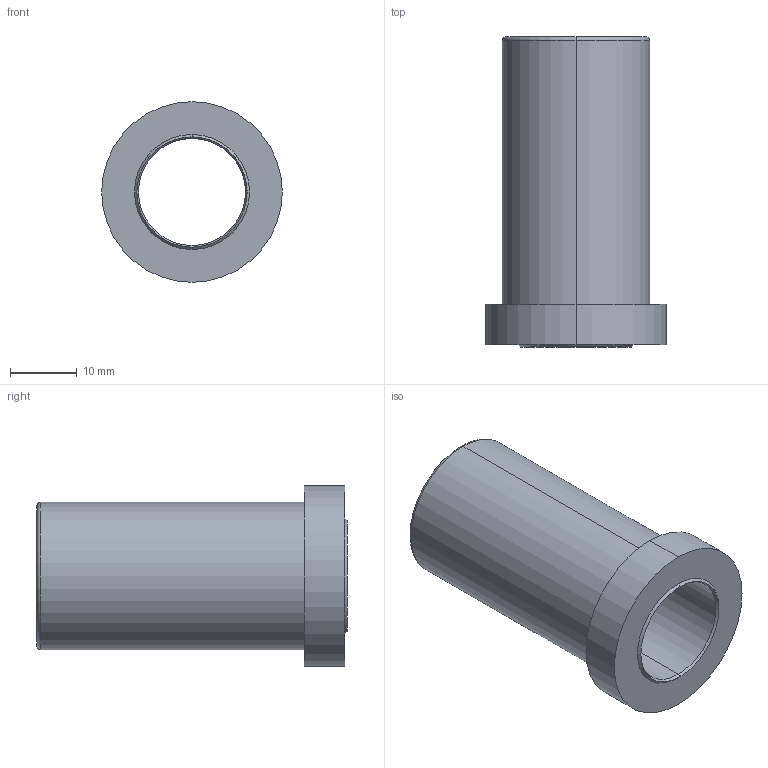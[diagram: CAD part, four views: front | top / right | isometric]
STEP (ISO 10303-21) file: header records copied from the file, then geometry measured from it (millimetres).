
FILE_DESCRIPTION (( 'STEP AP214' ), '1' );
FILE_NAME ('BR11W 16 x 46.STEP', '2020-07-16T14:10:07', ( 'August' ), ( '' ), 'SwSTEP 2.0', 'SolidWorks 2018', '' );
FILE_SCHEMA (( 'AUTOMOTIVE_DESIGN' ));
Length unit declared in the file: millimetre
Products named in the file (1): BR11W 16 x 46
Bounding box: 27 x 46.36 x 27 mm (x, y, z)
Volume: 9387.3 mm3; surface area: 6317.1 mm2
Topology: 1 solids, 1 shells, 17 faces, 34 edges, 20 vertices
Faces by surface type: cone 6, cylinder 6, plane 3, torus 2
Entity records: 484 total; most frequent: DIRECTION 92, CARTESIAN_POINT 72, ORIENTED_EDGE 68, AXIS2_PLACEMENT_3D 40, EDGE_CURVE 34, CIRCLE 22, VERTEX_POINT 20, EDGE_LOOP 20
